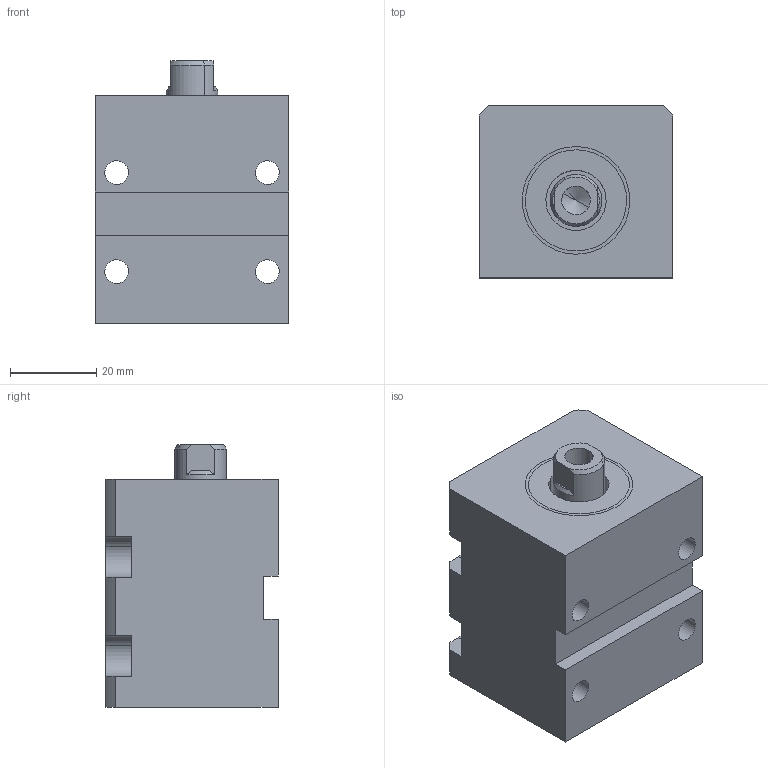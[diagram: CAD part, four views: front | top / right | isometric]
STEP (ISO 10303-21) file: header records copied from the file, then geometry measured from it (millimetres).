
FILE_DESCRIPTION(('CATIA V5 STEP Exchange'),'2;1');
FILE_NAME('\\Kjf-102\kjf_tc\Hydraulic_Clamp\Standard\BLOCK_CLAMP\BDV-20xx\Rev_B\배포도면\BDH-2010_B.stp','2025-03-14T06:45:19+00:00',('none'),('none'),'CATIA Version 5 Release 19 SP 6 (IN-10)','CATIA V5 STEP AP203','none');
FILE_SCHEMA(('CONFIG_CONTROL_DESIGN'));
Length unit declared in the file: millimetre
Products named in the file (1): BDH-20xx_A
Assembly tree (4 placements, depth 2):
  BDH-20xx_A
    #58
    #81
    #1701
    #2287
Bounding box: 45 x 40 x 61 mm (x, y, z)
Volume: 78687.2 mm3; surface area: 24657.9 mm2
Topology: 3 solids, 3 shells, 83 faces, 220 edges, 147 vertices
Faces by surface type: cylinder 40, plane 35, cone 8
Entity records: 2508 total; most frequent: CARTESIAN_POINT 461, ORIENTED_EDGE 436, DIRECTION 322, EDGE_CURVE 218, AXIS2_PLACEMENT_3D 150, VERTEX_POINT 147, VECTOR 116, LINE 116
